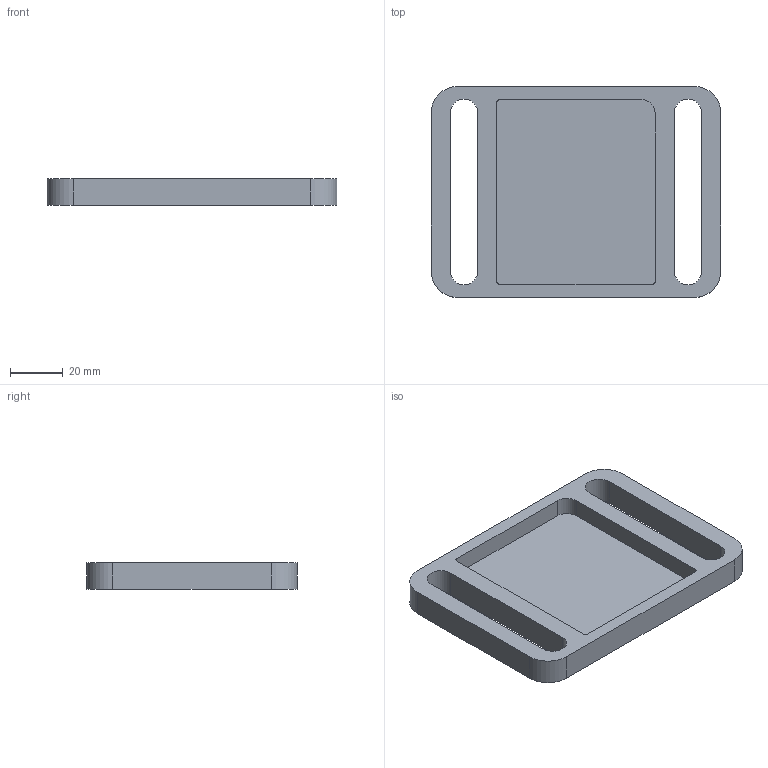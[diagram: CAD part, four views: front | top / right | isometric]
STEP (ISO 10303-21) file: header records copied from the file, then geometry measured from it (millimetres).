
FILE_DESCRIPTION(('CATIA V5 STEP Exchange'),'2;1');
FILE_NAME('C:\Users\hh\Desktop\AGZL01 设计文件（可编辑版）\AGZL01.01_V1.stp','2022-06-08T01:54:51+00:00',('none'),('none'),'CATIA Version 5 Release 21 GA (IN-10)','CATIA V5 STEP AP214','none');
FILE_SCHEMA(('AUTOMOTIVE_DESIGN { 1 0 10303 214 1 1 1 1 }'));
Length unit declared in the file: millimetre
Products named in the file (1): AGZL01.01_V1
Bounding box: 110 x 80 x 10 mm (x, y, z)
Volume: 43451.9 mm3; surface area: 23046 mm2
Topology: 1 solids, 1 shells, 27 faces, 72 edges, 48 vertices
Faces by surface type: plane 15, cylinder 12
Entity records: 856 total; most frequent: CARTESIAN_POINT 148, ORIENTED_EDGE 144, DIRECTION 126, EDGE_CURVE 72, AXIS2_PLACEMENT_3D 52, VECTOR 48, LINE 48, VERTEX_POINT 48
